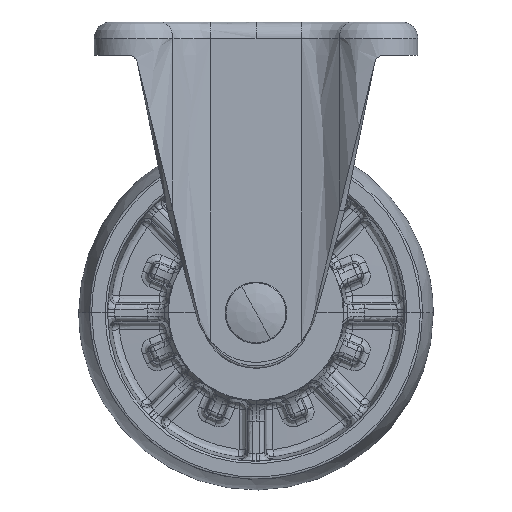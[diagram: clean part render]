
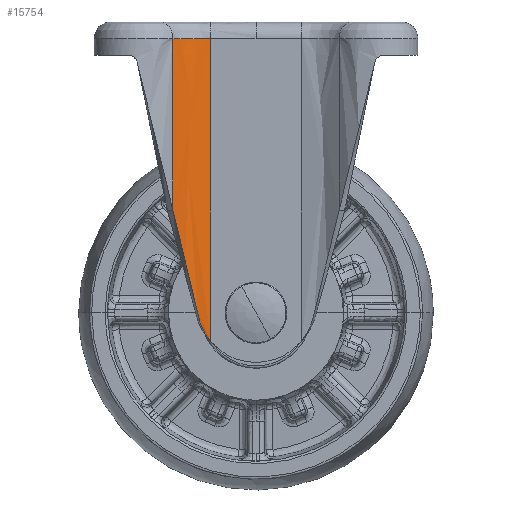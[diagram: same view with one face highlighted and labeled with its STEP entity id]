
A CAD part, front view. The second image highlights one B-rep face of the part: STEP entity #15754.
In plain terms, the highlighted free-form (B-spline) face has degree [3, 3] with [4, 7] control points.
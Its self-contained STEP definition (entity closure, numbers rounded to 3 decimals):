
#5797 = EDGE_CURVE ( 'NONE', #50338, #73269, #47350, .T. ) ;
#5800 = EDGE_CURVE ( 'NONE', #73254, #50338, #67962, .T. ) ;
#5803 = EDGE_CURVE ( 'NONE', #73339, #73254, #47341, .T. ) ;
#5804 = EDGE_CURVE ( 'NONE', #73269, #73311, #47338, .T. ) ;
#5836 = EDGE_CURVE ( 'NONE', #73311, #73339, #67964, .T. ) ;
#14318 = CARTESIAN_POINT ( 'NONE',  ( -19.125, -31., -11.667 ) ) ;
#14435 = CARTESIAN_POINT ( 'NONE',  ( -19.125, -31., -9.333 ) ) ;
#14436 = CARTESIAN_POINT ( 'NONE',  ( -19.125, -31., -7. ) ) ;
#14437 = CARTESIAN_POINT ( 'NONE',  ( -19.125, -31., -14. ) ) ;
#14438 = CARTESIAN_POINT ( 'NONE',  ( -19.125, -31., -54.624 ) ) ;
#14439 = CARTESIAN_POINT ( 'NONE',  ( -19.125, -31., -95.247 ) ) ;
#14440 = CARTESIAN_POINT ( 'NONE',  ( -19.125, -31., -135.871 ) ) ;
#14441 = CARTESIAN_POINT ( 'NONE',  ( -25.443, -31., -7. ) ) ;
#14442 = CARTESIAN_POINT ( 'NONE',  ( -25.443, -31., -9.333 ) ) ;
#14443 = CARTESIAN_POINT ( 'NONE',  ( -25.443, -31., -11.667 ) ) ;
#14444 = CARTESIAN_POINT ( 'NONE',  ( -25.443, -31., -14. ) ) ;
#14445 = CARTESIAN_POINT ( 'NONE',  ( -25.443, -31., -54.624 ) ) ;
#14446 = CARTESIAN_POINT ( 'NONE',  ( -25.443, -31., -95.247 ) ) ;
#14447 = CARTESIAN_POINT ( 'NONE',  ( -25.443, -31., -135.871 ) ) ;
#14448 = CARTESIAN_POINT ( 'NONE',  ( -31.39, -33.985, -7. ) ) ;
#14449 = CARTESIAN_POINT ( 'NONE',  ( -31.39, -33.985, -9.333 ) ) ;
#14450 = CARTESIAN_POINT ( 'NONE',  ( -31.39, -33.985, -11.667 ) ) ;
#14451 = CARTESIAN_POINT ( 'NONE',  ( -31.39, -33.985, -14. ) ) ;
#14452 = CARTESIAN_POINT ( 'NONE',  ( -31.39, -33.985, -54.624 ) ) ;
#14453 = CARTESIAN_POINT ( 'NONE',  ( -31.39, -33.985, -95.247 ) ) ;
#14454 = CARTESIAN_POINT ( 'NONE',  ( -31.39, -33.985, -135.871 ) ) ;
#14455 = CARTESIAN_POINT ( 'NONE',  ( -35.164, -39.052, -7. ) ) ;
#14456 = CARTESIAN_POINT ( 'NONE',  ( -35.164, -39.052, -9.333 ) ) ;
#14457 = CARTESIAN_POINT ( 'NONE',  ( -35.164, -39.052, -11.667 ) ) ;
#14458 = CARTESIAN_POINT ( 'NONE',  ( -35.164, -39.052, -14. ) ) ;
#14459 = CARTESIAN_POINT ( 'NONE',  ( -35.164, -39.052, -54.624 ) ) ;
#14460 = CARTESIAN_POINT ( 'NONE',  ( -35.164, -39.052, -95.247 ) ) ;
#14461 = CARTESIAN_POINT ( 'NONE',  ( -35.164, -39.052, -135.871 ) ) ;
#15754 = ADVANCED_FACE ( 'NONE', ( #65074 ), #22526, .T. ) ;
#20932 = EDGE_LOOP ( 'NONE', ( #112384, #112385, #112386, #112387, #112388 ) ) ;
#22526 = B_SPLINE_SURFACE_WITH_KNOTS ( 'NONE', 3, 3, ( 
 ( #14436, #14435, #14318, #14437, #14438, #14439, #14440 ),
 ( #14441, #14442, #14443, #14444, #14445, #14446, #14447 ),
 ( #14448, #14449, #14450, #14451, #14452, #14453, #14454 ),
 ( #14455, #14456, #14457, #14458, #14459, #14460, #14461 ) ),
 .UNSPECIFIED., .F., .F., .F.,
 ( 4, 4 ),
 ( 4, 3, 4 ),
 ( 0., 1. ),
 ( 0.049, 0.097, 0.944 ),
 .UNSPECIFIED. ) ;
#42603 = CARTESIAN_POINT ( 'NONE',  ( -35.164, -39.052, -79.577 ) ) ;
#43201 = CARTESIAN_POINT ( 'NONE',  ( -35.164, -39.052, -7. ) ) ;
#43231 = CARTESIAN_POINT ( 'NONE',  ( -24.678, -31.786, -123. ) ) ;
#47338 = B_SPLINE_CURVE_WITH_KNOTS ( 'NONE', 3,
 ( #101222, #101234, #101236, #101238, #101240, #101242, #101243, #101245, #101247, #101249, #101250, #101251, #101253, #101255, #101257, #101259 ),
 .UNSPECIFIED., .F., .F.,
 ( 4, 2, 2, 2, 2, 2, 2, 4 ),
 ( 0., 0.002, 0.003, 0.005, 0.007, 0.008, 0.01, 0.013 ),
 .UNSPECIFIED. ) ;
#47341 = B_SPLINE_CURVE_WITH_KNOTS ( 'NONE', 3,
 ( #101194, #101226, #101228, #101229 ),
 .UNSPECIFIED., .F., .F.,
 ( 4, 4 ),
 ( 0., 1. ),
 .UNSPECIFIED. ) ;
#47350 = B_SPLINE_CURVE_WITH_KNOTS ( 'NONE', 3,
 ( #101139, #101156, #101158, #101160, #101162, #101164, #101166, #101168, #101170, #101172, #101174, #101176 ),
 .UNSPECIFIED., .F., .F.,
 ( 4, 2, 2, 2, 2, 4 ),
 ( 0., 0.006, 0.011, 0.023, 0.034, 0.045 ),
 .UNSPECIFIED. ) ;
#50338 = VERTEX_POINT ( 'NONE', #42603 ) ;
#65074 = FACE_OUTER_BOUND ( 'NONE', #20932, .T. ) ;
#67962 = LINE ( 'NONE', #101190, #67963 ) ;
#67963 = VECTOR ( 'NONE', #101192, 1000. ) ;
#67964 = LINE ( 'NONE', #101715, #67993 ) ;
#67993 = VECTOR ( 'NONE', #101717, 1000. ) ;
#73254 = VERTEX_POINT ( 'NONE', #43201 ) ;
#73269 = VERTEX_POINT ( 'NONE', #43231 ) ;
#73311 = VERTEX_POINT ( 'NONE', #110642 ) ;
#73339 = VERTEX_POINT ( 'NONE', #110670 ) ;
#101139 = CARTESIAN_POINT ( 'NONE',  ( -35.164, -39.052, -79.577 ) ) ;
#101156 = CARTESIAN_POINT ( 'NONE',  ( -34.741, -38.484, -81.33 ) ) ;
#101158 = CARTESIAN_POINT ( 'NONE',  ( -34.314, -37.973, -83.099 ) ) ;
#101160 = CARTESIAN_POINT ( 'NONE',  ( -33.454, -37.032, -86.659 ) ) ;
#101162 = CARTESIAN_POINT ( 'NONE',  ( -33.022, -36.604, -88.448 ) ) ;
#101164 = CARTESIAN_POINT ( 'NONE',  ( -31.721, -35.42, -93.836 ) ) ;
#101166 = CARTESIAN_POINT ( 'NONE',  ( -30.846, -34.761, -97.456 ) ) ;
#101168 = CARTESIAN_POINT ( 'NONE',  ( -29.092, -33.629, -104.72 ) ) ;
#101170 = CARTESIAN_POINT ( 'NONE',  ( -28.212, -33.157, -108.366 ) ) ;
#101172 = CARTESIAN_POINT ( 'NONE',  ( -26.447, -32.363, -115.673 ) ) ;
#101174 = CARTESIAN_POINT ( 'NONE',  ( -25.564, -32.042, -119.334 ) ) ;
#101176 = CARTESIAN_POINT ( 'NONE',  ( -24.678, -31.786, -123. ) ) ;
#101190 = CARTESIAN_POINT ( 'NONE',  ( -35.164, -39.052, -72. ) ) ;
#101192 = DIRECTION ( 'NONE',  ( 0., 0., -1. ) ) ;
#101194 = CARTESIAN_POINT ( 'NONE',  ( -19.125, -31., -7. ) ) ;
#101222 = CARTESIAN_POINT ( 'NONE',  ( -24.678, -31.786, -123. ) ) ;
#101226 = CARTESIAN_POINT ( 'NONE',  ( -25.443, -31., -7. ) ) ;
#101228 = CARTESIAN_POINT ( 'NONE',  ( -31.39, -33.985, -7. ) ) ;
#101229 = CARTESIAN_POINT ( 'NONE',  ( -35.164, -39.052, -7. ) ) ;
#101234 = CARTESIAN_POINT ( 'NONE',  ( -24.585, -31.759, -123.556 ) ) ;
#101236 = CARTESIAN_POINT ( 'NONE',  ( -24.479, -31.729, -124.108 ) ) ;
#101238 = CARTESIAN_POINT ( 'NONE',  ( -24.226, -31.661, -125.199 ) ) ;
#101240 = CARTESIAN_POINT ( 'NONE',  ( -24.082, -31.623, -125.74 ) ) ;
#101242 = CARTESIAN_POINT ( 'NONE',  ( -23.759, -31.543, -126.81 ) ) ;
#101243 = CARTESIAN_POINT ( 'NONE',  ( -23.578, -31.501, -127.339 ) ) ;
#101245 = CARTESIAN_POINT ( 'NONE',  ( -23.18, -31.414, -128.388 ) ) ;
#101247 = CARTESIAN_POINT ( 'NONE',  ( -22.963, -31.37, -128.908 ) ) ;
#101249 = CARTESIAN_POINT ( 'NONE',  ( -22.495, -31.284, -129.93 ) ) ;
#101250 = CARTESIAN_POINT ( 'NONE',  ( -22.244, -31.243, -130.433 ) ) ;
#101251 = CARTESIAN_POINT ( 'NONE',  ( -21.707, -31.165, -131.422 ) ) ;
#101253 = CARTESIAN_POINT ( 'NONE',  ( -21.421, -31.13, -131.908 ) ) ;
#101255 = CARTESIAN_POINT ( 'NONE',  ( -20.518, -31.039, -133.332 ) ) ;
#101257 = CARTESIAN_POINT ( 'NONE',  ( -19.853, -31., -134.238 ) ) ;
#101259 = CARTESIAN_POINT ( 'NONE',  ( -19.125, -31., -135.102 ) ) ;
#101715 = CARTESIAN_POINT ( 'NONE',  ( -19.125, -31., 0. ) ) ;
#101717 = DIRECTION ( 'NONE',  ( 0., 0., 1. ) ) ;
#110642 = CARTESIAN_POINT ( 'NONE',  ( -19.125, -31., -135.102 ) ) ;
#110670 = CARTESIAN_POINT ( 'NONE',  ( -19.125, -31., -7. ) ) ;
#112384 = ORIENTED_EDGE ( 'NONE', *, *, #5804, .T. ) ;
#112385 = ORIENTED_EDGE ( 'NONE', *, *, #5836, .T. ) ;
#112386 = ORIENTED_EDGE ( 'NONE', *, *, #5803, .T. ) ;
#112387 = ORIENTED_EDGE ( 'NONE', *, *, #5800, .T. ) ;
#112388 = ORIENTED_EDGE ( 'NONE', *, *, #5797, .T. ) ;
